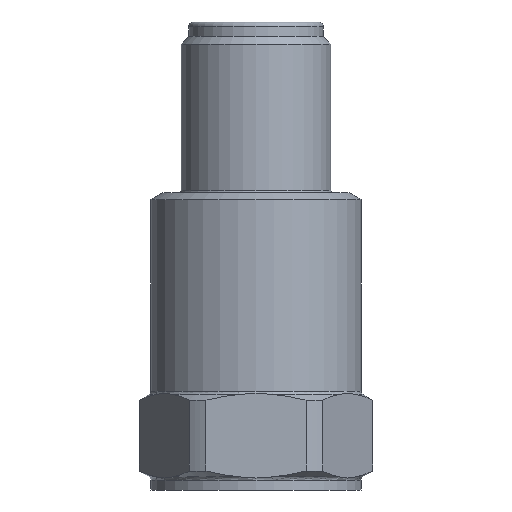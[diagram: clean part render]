
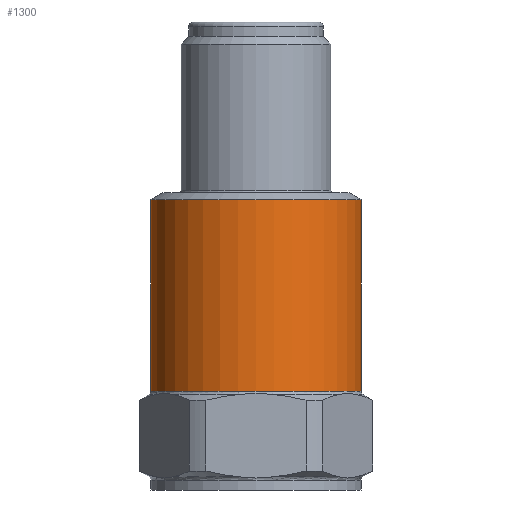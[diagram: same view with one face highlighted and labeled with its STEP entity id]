
A CAD part, front view. The second image highlights one B-rep face of the part: STEP entity #1300.
In plain terms, the highlighted cylindrical face has radius 11.049 mm (diameter 22.098 mm), a full revolution.
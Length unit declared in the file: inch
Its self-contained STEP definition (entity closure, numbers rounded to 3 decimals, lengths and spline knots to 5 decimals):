
#232=FACE_OUTER_BOUND('',#313,.T.);
#313=EDGE_LOOP('',(#1107,#1108,#1109,#1110,#1111,#1112,#1113));
#366=LINE('',#2410,#409);
#409=VECTOR('',#1824,0.435);
#482=CIRCLE('',#1434,0.435);
#483=CIRCLE('',#1435,0.435);
#507=CIRCLE('',#1467,0.435);
#508=CIRCLE('',#1468,0.435);
#509=CIRCLE('',#1469,0.435);
#591=VERTEX_POINT('',#2163);
#592=VERTEX_POINT('',#2165);
#633=VERTEX_POINT('',#2346);
#634=VERTEX_POINT('',#2348);
#635=VERTEX_POINT('',#2350);
#749=EDGE_CURVE('',#591,#592,#482,.T.);
#750=EDGE_CURVE('',#592,#591,#483,.T.);
#798=EDGE_CURVE('',#633,#634,#507,.T.);
#799=EDGE_CURVE('',#634,#635,#508,.T.);
#800=EDGE_CURVE('',#635,#633,#509,.T.);
#818=EDGE_CURVE('',#591,#634,#366,.T.);
#1107=ORIENTED_EDGE('',*,*,#750,.F.);
#1108=ORIENTED_EDGE('',*,*,#749,.F.);
#1109=ORIENTED_EDGE('',*,*,#818,.T.);
#1110=ORIENTED_EDGE('',*,*,#798,.F.);
#1111=ORIENTED_EDGE('',*,*,#800,.F.);
#1112=ORIENTED_EDGE('',*,*,#799,.F.);
#1113=ORIENTED_EDGE('',*,*,#818,.F.);
#1243=CYLINDRICAL_SURFACE('',#1481,0.435);
#1300=ADVANCED_FACE('',(#232),#1243,.T.);
#1434=AXIS2_PLACEMENT_3D('',#2166,#1727,#1728);
#1435=AXIS2_PLACEMENT_3D('',#2167,#1729,#1730);
#1467=AXIS2_PLACEMENT_3D('',#2349,#1794,#1795);
#1468=AXIS2_PLACEMENT_3D('',#2351,#1796,#1797);
#1469=AXIS2_PLACEMENT_3D('',#2352,#1798,#1799);
#1481=AXIS2_PLACEMENT_3D('',#2409,#1822,#1823);
#1727=DIRECTION('center_axis',(0.,0.,1.));
#1728=DIRECTION('ref_axis',(-1.,0.,0.));
#1729=DIRECTION('center_axis',(0.,0.,1.));
#1730=DIRECTION('ref_axis',(-1.,0.,0.));
#1794=DIRECTION('center_axis',(0.,0.,-1.));
#1795=DIRECTION('ref_axis',(1.,0.,0.));
#1796=DIRECTION('center_axis',(0.,0.,-1.));
#1797=DIRECTION('ref_axis',(1.,0.,0.));
#1798=DIRECTION('center_axis',(0.,0.,-1.));
#1799=DIRECTION('ref_axis',(1.,0.,0.));
#1822=DIRECTION('center_axis',(0.,0.,1.));
#1823=DIRECTION('ref_axis',(-1.,0.,0.));
#1824=DIRECTION('',(0.,0.,-1.));
#2163=CARTESIAN_POINT('',(0.435,-0.064,0.74013));
#2165=CARTESIAN_POINT('',(-0.435,-0.064,0.74013));
#2166=CARTESIAN_POINT('Origin',(0.,-0.064,0.74013));
#2167=CARTESIAN_POINT('Origin',(0.,-0.064,0.74013));
#2346=CARTESIAN_POINT('',(0.,0.371,-0.05234));
#2348=CARTESIAN_POINT('',(0.435,-0.064,-0.05234));
#2349=CARTESIAN_POINT('Origin',(0.,-0.064,
-0.05234));
#2350=CARTESIAN_POINT('',(-0.435,-0.064,-0.05234));
#2351=CARTESIAN_POINT('Origin',(0.,-0.064,
-0.05234));
#2352=CARTESIAN_POINT('Origin',(0.,-0.064,
-0.05234));
#2409=CARTESIAN_POINT('Origin',(0.,-0.064,
0.034));
#2410=CARTESIAN_POINT('',(0.435,-0.064,0.034));
